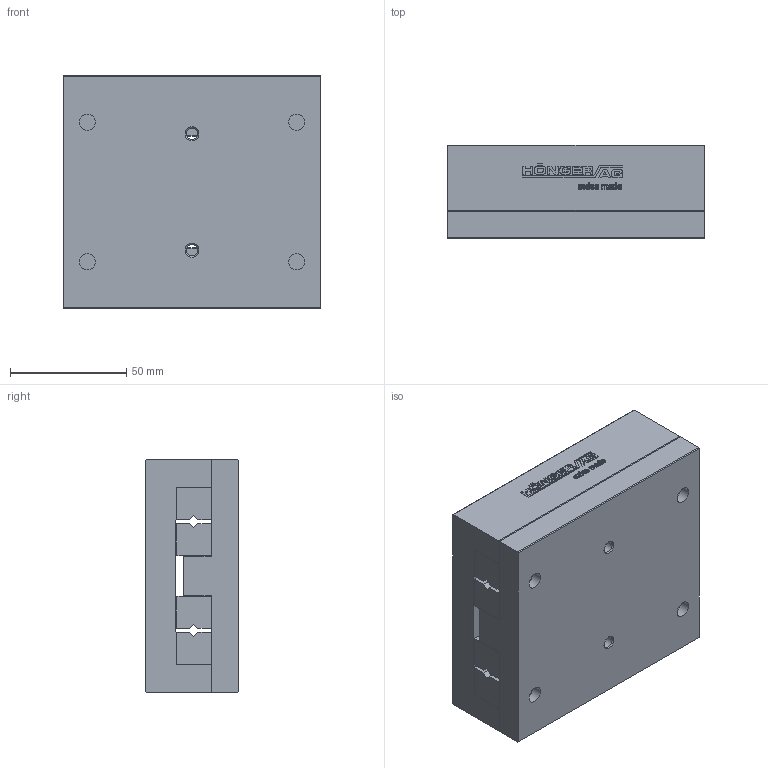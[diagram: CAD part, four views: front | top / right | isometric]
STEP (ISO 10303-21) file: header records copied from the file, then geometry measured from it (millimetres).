
FILE_DESCRIPTION(/* description */ ('STEP AP214'),/* implementation_level */ '2;1');
FILE_NAME(/* name */ 'NKL 6-110(0)',/* time_stamp */ '2025-04-24T11:41:05+02:00',/* author */ ('License CC BY-ND 4.0'),/* organization */ ('CADENAS'),/* preprocessor_version */ 'ST-DEVELOPER v19.3',/* originating_system */ 'PARTsolutions',/* authorisation */ ' ');
FILE_SCHEMA (('AUTOMOTIVE_DESIGN {1 0 10303 214 3 1 1}'));
Length unit declared in the file: millimetre
Products named in the file (3): NKL 6-110(0); NKL 6-110_1; NKL 6-110_2
Assembly tree (2 placements, depth 2):
  NKL 6-110(0)
    NKL 6-110_1
    NKL 6-110_2
Bounding box: 110 x 40 x 100 mm (x, y, z)
Volume: 418070.7 mm3; surface area: 82543.5 mm2
Topology: 2 solids, 2 shells, 587 faces, 1644 edges, 1084 vertices
Faces by surface type: cylinder 304, plane 275, cone 8
Full cylindrical faces by diameter (mm): 4.917 x4, 7 x4, 15 x4
Entity records: 18989 total; most frequent: DIRECTION 3420, CARTESIAN_POINT 3282, ORIENTED_EDGE 3232, EDGE_CURVE 1616, AXIS2_PLACEMENT_3D 1214, VERTEX_POINT 1076, LINE 992, VECTOR 992
